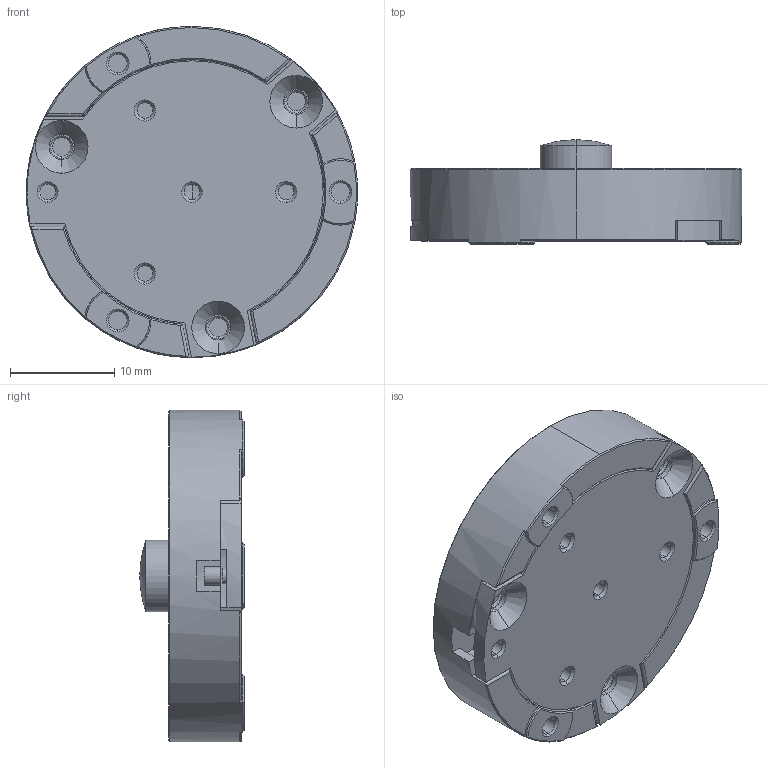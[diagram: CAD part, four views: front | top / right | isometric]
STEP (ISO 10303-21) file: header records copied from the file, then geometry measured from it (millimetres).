
FILE_DESCRIPTION (( 'STEP AP203' ), '1' );
FILE_NAME ('iload mini dome.STEP', '2012-04-30T20:13:09', ( '' ), ( '' ), 'SwSTEP 2.0', 'SolidWorks 2009', '' );
FILE_SCHEMA (( 'CONFIG_CONTROL_DESIGN' ));
Length unit declared in the file: inch
Products named in the file (1): iload mini dome
Bounding box: 31.75 x 10.01 x 31.75 mm (x, y, z)
Surface area: 2923.3 mm2 (no closed solid volume)
Topology: 0 solids, 2 shells, 147 faces, 402 edges, 256 vertices
Faces by surface type: cone 58, cylinder 56, plane 31, sphere 2
Entity records: 4818 total; most frequent: CARTESIAN_POINT 974, DIRECTION 838, ORIENTED_EDGE 740, EDGE_CURVE 402, AXIS2_PLACEMENT_3D 336, VERTEX_POINT 256, CIRCLE 188, VECTOR 166
